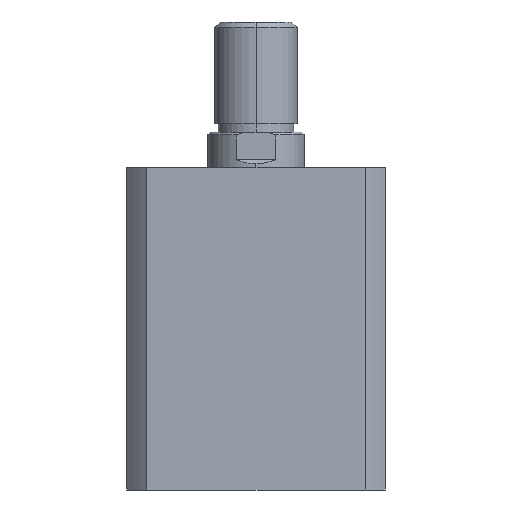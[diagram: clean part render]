
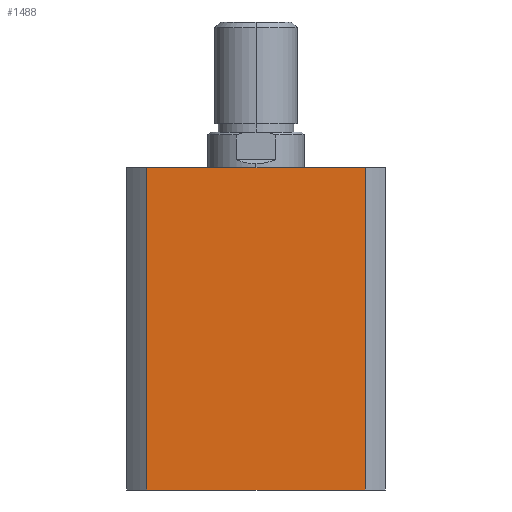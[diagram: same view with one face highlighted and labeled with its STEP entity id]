
A CAD part, left-side view. The second image highlights one B-rep face of the part: STEP entity #1488.
In plain terms, the highlighted planar face has unit normal (-1, 0, 0).
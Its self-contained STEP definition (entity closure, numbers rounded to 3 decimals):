
#379 = DIRECTION ( 'NONE',  ( 0., -1., 0. ) ) ;
#384 = CARTESIAN_POINT ( 'NONE',  ( -47., 0., 117. ) ) ;
#972 = EDGE_CURVE ( 'NONE', #4341, #4342, #1852, .T. ) ;
#1488 = ADVANCED_FACE ( 'NONE', ( #2011 ), #3679, .F. ) ;
#1852 = LINE ( 'NONE', #384, #1855 ) ;
#1855 = VECTOR ( 'NONE', #379, 1000. ) ;
#2011 = FACE_OUTER_BOUND ( 'NONE', #3401, .T. ) ;
#2434 = DIRECTION ( 'NONE',  ( 0., 0., -1. ) ) ;
#2441 = CARTESIAN_POINT ( 'NONE',  ( -47., 39.664, 117. ) ) ;
#2443 = CARTESIAN_POINT ( 'NONE',  ( -47., 0., 0. ) ) ;
#2448 = DIRECTION ( 'NONE',  ( 0., -1., 0. ) ) ;
#2449 = CARTESIAN_POINT ( 'NONE',  ( -47., -39.664, 117. ) ) ;
#2451 = DIRECTION ( 'NONE',  ( 0., 0., -1. ) ) ;
#3162 = CARTESIAN_POINT ( 'NONE',  ( -47., 39.664, 117. ) ) ;
#3163 = CARTESIAN_POINT ( 'NONE',  ( -47., -39.664, 117. ) ) ;
#3182 = CARTESIAN_POINT ( 'NONE',  ( -47., 39.664, 0. ) ) ;
#3183 = CARTESIAN_POINT ( 'NONE',  ( -47., -39.664, 0. ) ) ;
#3401 = EDGE_LOOP ( 'NONE', ( #4469, #4470, #4471, #4472 ) ) ;
#3674 = CARTESIAN_POINT ( 'NONE',  ( -47., 0., 117. ) ) ;
#3679 = PLANE ( 'NONE',  #4731 ) ;
#3682 = DIRECTION ( 'NONE',  ( 1., 0., 0. ) ) ;
#3683 = DIRECTION ( 'NONE',  ( 0., 0., -1. ) ) ;
#3888 = LINE ( 'NONE', #2443, #3894 ) ;
#3890 = LINE ( 'NONE', #2441, #3892 ) ;
#3892 = VECTOR ( 'NONE', #2434, 1000. ) ;
#3893 = LINE ( 'NONE', #2449, #3896 ) ;
#3894 = VECTOR ( 'NONE', #2448, 1000. ) ;
#3896 = VECTOR ( 'NONE', #2451, 1000. ) ;
#4341 = VERTEX_POINT ( 'NONE', #3162 ) ;
#4342 = VERTEX_POINT ( 'NONE', #3163 ) ;
#4361 = VERTEX_POINT ( 'NONE', #3182 ) ;
#4362 = VERTEX_POINT ( 'NONE', #3183 ) ;
#4469 = ORIENTED_EDGE ( 'NONE', *, *, #4539, .T. ) ;
#4470 = ORIENTED_EDGE ( 'NONE', *, *, #4540, .F. ) ;
#4471 = ORIENTED_EDGE ( 'NONE', *, *, #972, .F. ) ;
#4472 = ORIENTED_EDGE ( 'NONE', *, *, #4538, .T. ) ;
#4538 = EDGE_CURVE ( 'NONE', #4341, #4361, #3890, .T. ) ;
#4539 = EDGE_CURVE ( 'NONE', #4361, #4362, #3888, .T. ) ;
#4540 = EDGE_CURVE ( 'NONE', #4342, #4362, #3893, .T. ) ;
#4731 = AXIS2_PLACEMENT_3D ( 'NONE', #3674, #3682, #3683 ) ;
